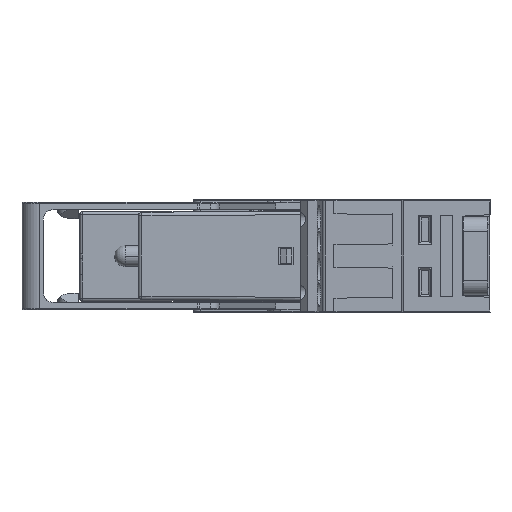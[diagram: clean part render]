
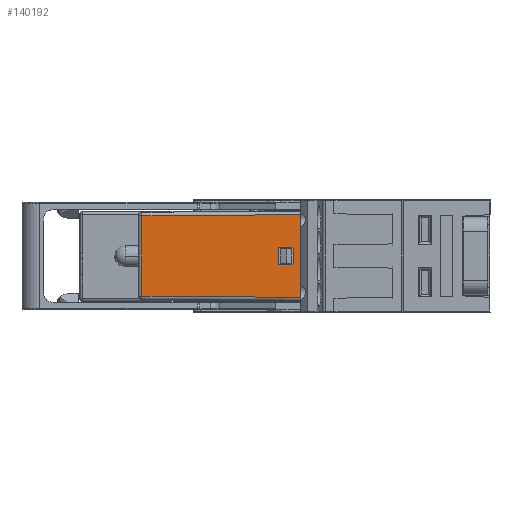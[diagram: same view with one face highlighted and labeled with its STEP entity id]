
A CAD part, left-side view. The second image highlights one B-rep face of the part: STEP entity #140192.
In plain terms, the highlighted planar face has unit normal (-1, 0.006, 0) as drawn and (1, 0.006, 0) by its records, which use the part's own axes.
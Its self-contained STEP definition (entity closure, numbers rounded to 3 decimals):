
#262 = DIRECTION ( 'NONE',  ( 0., 0., -1. ) ) ;
#3844 = LINE ( 'NONE', #123425, #105971 ) ;
#4947 = LINE ( 'NONE', #33888, #188068 ) ;
#11970 = CARTESIAN_POINT ( 'NONE',  ( 8.551, 0.1, 6.1 ) ) ;
#14584 = LINE ( 'NONE', #28545, #68615 ) ;
#14789 = CARTESIAN_POINT ( 'NONE',  ( 8.544, 1.2, 1.5 ) ) ;
#20111 = VECTOR ( 'NONE', #95083, 1000. ) ;
#27002 = DIRECTION ( 'NONE',  ( 0.006, -1., 0.006 ) ) ;
#28545 = CARTESIAN_POINT ( 'NONE',  ( 8.53, 3.306, 1.5 ) ) ;
#32502 = VERTEX_POINT ( 'NONE', #11970 ) ;
#33888 = CARTESIAN_POINT ( 'NONE',  ( 8.544, 1.2, -1.025 ) ) ;
#45644 = DIRECTION ( 'NONE',  ( 0., 0., 1. ) ) ;
#45893 = VERTEX_POINT ( 'NONE', #76337 ) ;
#50936 = CARTESIAN_POINT ( 'NONE',  ( 8.544, 1.2, -1. ) ) ;
#51234 = CARTESIAN_POINT ( 'NONE',  ( 8.53, 3.3, 1.5 ) ) ;
#59240 = EDGE_CURVE ( 'NONE', #45893, #32502, #149502, .T. ) ;
#60681 = LINE ( 'NONE', #78570, #175403 ) ;
#61607 = ORIENTED_EDGE ( 'NONE', *, *, #92483, .T. ) ;
#68615 = VECTOR ( 'NONE', #196896, 1000. ) ;
#72563 = CARTESIAN_POINT ( 'NONE',  ( 8.53, 3.3, -1.025 ) ) ;
#76337 = CARTESIAN_POINT ( 'NONE',  ( 8.406, 22.603, 5.955 ) ) ;
#78570 = CARTESIAN_POINT ( 'NONE',  ( 8.551, 0.1, 6.6 ) ) ;
#79576 = DIRECTION ( 'NONE',  ( 0., 0., 1. ) ) ;
#80132 = LINE ( 'NONE', #184712, #20111 ) ;
#87595 = LINE ( 'NONE', #119435, #183103 ) ;
#91948 = CARTESIAN_POINT ( 'NONE',  ( 8.551, 0.1, 6.6 ) ) ;
#92483 = EDGE_CURVE ( 'NONE', #32502, #145177, #60681, .T. ) ;
#95083 = DIRECTION ( 'NONE',  ( -0.006, 1., 0.006 ) ) ;
#95498 = EDGE_CURVE ( 'NONE', #145177, #141003, #80132, .T. ) ;
#100148 = ORIENTED_EDGE ( 'NONE', *, *, #154974, .F. ) ;
#101541 = DIRECTION ( 'NONE',  ( -0.006, 1., 0. ) ) ;
#102124 = AXIS2_PLACEMENT_3D ( 'NONE', #91948, #174274, #262 ) ;
#105971 = VECTOR ( 'NONE', #79576, 1000. ) ;
#106395 = LINE ( 'NONE', #72563, #191688 ) ;
#107474 = DIRECTION ( 'NONE',  ( 0., 0., -1. ) ) ;
#114443 = DIRECTION ( 'NONE',  ( 0., 0., -1. ) ) ;
#116306 = ORIENTED_EDGE ( 'NONE', *, *, #135016, .F. ) ;
#118154 = CARTESIAN_POINT ( 'NONE',  ( 8.406, 22.603, -5.455 ) ) ;
#118626 = CARTESIAN_POINT ( 'NONE',  ( 8.551, 0.097, 6.1 ) ) ;
#119435 = CARTESIAN_POINT ( 'NONE',  ( 8.53, 3.306, -1. ) ) ;
#120256 = EDGE_CURVE ( 'NONE', #171535, #160561, #87595, .T. ) ;
#121163 = EDGE_LOOP ( 'NONE', ( #161515, #148732, #195251, #61607 ) ) ;
#122831 = FACE_BOUND ( 'NONE', #129795, .T. ) ;
#123425 = CARTESIAN_POINT ( 'NONE',  ( 8.406, 22.603, 5.951 ) ) ;
#128652 = VERTEX_POINT ( 'NONE', #51234 ) ;
#129795 = EDGE_LOOP ( 'NONE', ( #100148, #184018, #177478, #116306 ) ) ;
#130437 = EDGE_CURVE ( 'NONE', #150994, #171535, #4947, .T. ) ;
#135016 = EDGE_CURVE ( 'NONE', #128652, #150994, #14584, .T. ) ;
#140192 = ADVANCED_FACE ( 'NONE', ( #150772, #122831 ), #143398, .T. ) ;
#141003 = VERTEX_POINT ( 'NONE', #118154 ) ;
#143398 = PLANE ( 'NONE',  #102124 ) ;
#145177 = VERTEX_POINT ( 'NONE', #177088 ) ;
#148732 = ORIENTED_EDGE ( 'NONE', *, *, #153434, .T. ) ;
#149502 = LINE ( 'NONE', #118626, #174682 ) ;
#150772 = FACE_OUTER_BOUND ( 'NONE', #121163, .T. ) ;
#150994 = VERTEX_POINT ( 'NONE', #14789 ) ;
#153434 = EDGE_CURVE ( 'NONE', #141003, #45893, #3844, .T. ) ;
#154974 = EDGE_CURVE ( 'NONE', #160561, #128652, #106395, .T. ) ;
#157986 = CARTESIAN_POINT ( 'NONE',  ( 8.53, 3.3, -1. ) ) ;
#160561 = VERTEX_POINT ( 'NONE', #157986 ) ;
#161515 = ORIENTED_EDGE ( 'NONE', *, *, #95498, .T. ) ;
#171535 = VERTEX_POINT ( 'NONE', #50936 ) ;
#174274 = DIRECTION ( 'NONE',  ( 1., 0.006, 0. ) ) ;
#174682 = VECTOR ( 'NONE', #27002, 1000. ) ;
#175403 = VECTOR ( 'NONE', #107474, 1000. ) ;
#177088 = CARTESIAN_POINT ( 'NONE',  ( 8.551, 0.1, -5.6 ) ) ;
#177478 = ORIENTED_EDGE ( 'NONE', *, *, #130437, .F. ) ;
#183103 = VECTOR ( 'NONE', #101541, 1000. ) ;
#184018 = ORIENTED_EDGE ( 'NONE', *, *, #120256, .F. ) ;
#184712 = CARTESIAN_POINT ( 'NONE',  ( 8.55, 0.179, -5.6 ) ) ;
#188068 = VECTOR ( 'NONE', #114443, 1000. ) ;
#191688 = VECTOR ( 'NONE', #45644, 1000. ) ;
#195251 = ORIENTED_EDGE ( 'NONE', *, *, #59240, .T. ) ;
#196896 = DIRECTION ( 'NONE',  ( 0.006, -1., 0. ) ) ;
